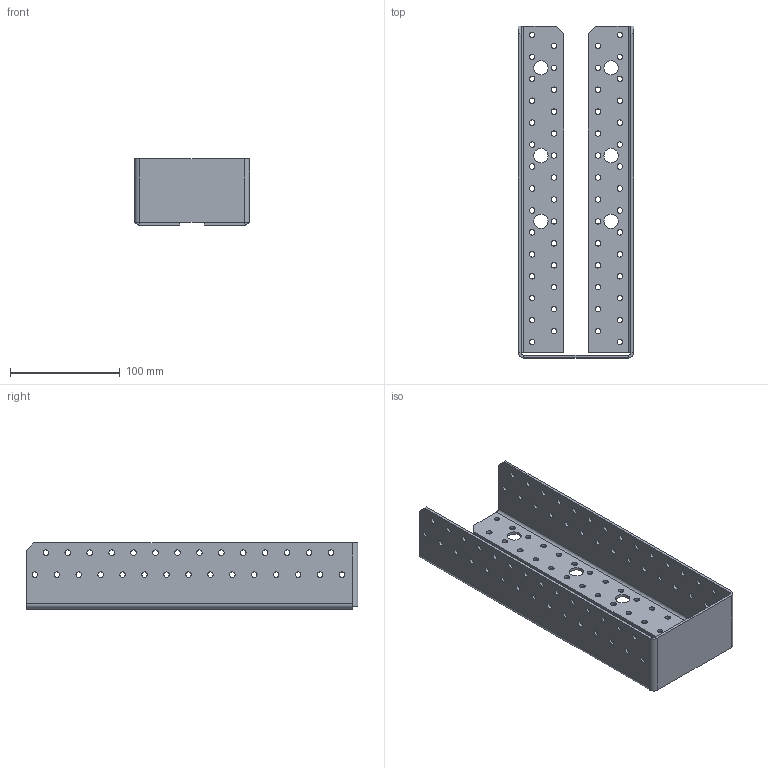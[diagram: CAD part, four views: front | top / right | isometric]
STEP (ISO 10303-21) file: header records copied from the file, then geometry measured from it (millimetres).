
FILE_DESCRIPTION (( 'STEP AP203' ), '1' );
FILE_NAME ('40503IKO.STEP', '2021-04-16T07:37:52', ( '' ), ( '' ), 'SwSTEP 2.0', 'SolidWorks 2013', '' );
FILE_SCHEMA (( 'CONFIG_CONTROL_DESIGN' ));
Length unit declared in the file: millimetre
Products named in the file (1): 40503IKO
Bounding box: 105 x 302.5 x 60.5 mm (x, y, z)
Volume: 153165.2 mm3; surface area: 131859.1 mm2
Topology: 1 solids, 1 shells, 288 faces, 828 edges, 542 vertices
Faces by surface type: cylinder 252, plane 36
Entity records: 10263 total; most frequent: DIRECTION 1912, CARTESIAN_POINT 1659, ORIENTED_EDGE 1656, EDGE_CURVE 828, AXIS2_PLACEMENT_3D 795, VERTEX_POINT 542, EDGE_LOOP 532, CIRCLE 506
